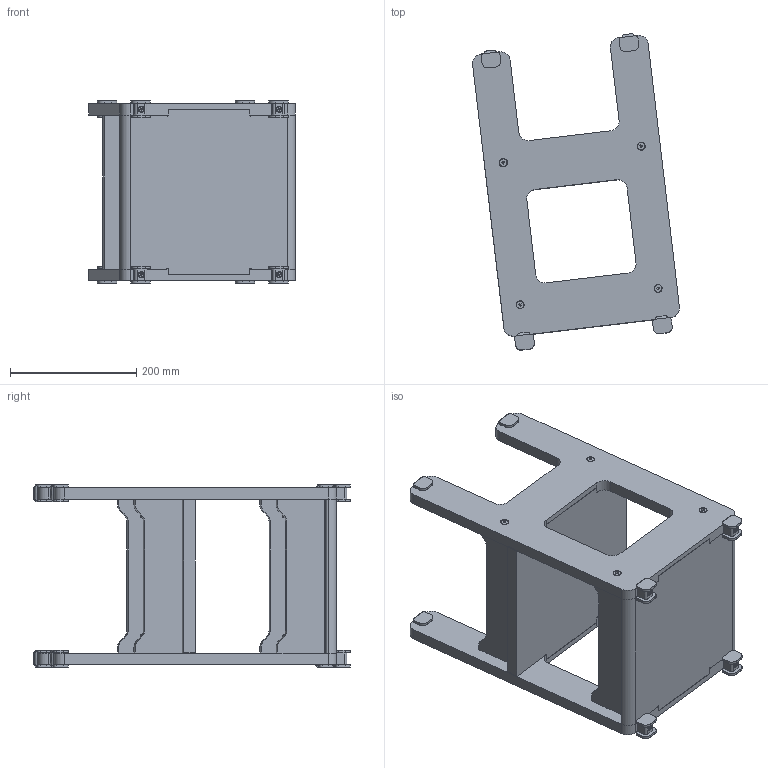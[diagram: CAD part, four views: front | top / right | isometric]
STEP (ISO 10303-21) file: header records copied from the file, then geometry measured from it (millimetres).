
FILE_DESCRIPTION (( 'STEP AP214' ), '1' );
FILE_NAME ('tabouret-rangement-280x280x450.STEP', '2016-07-25T16:02:40', ( '' ), ( '' ), 'SwSTEP 2.0', 'SolidWorks 2014', '' );
FILE_SCHEMA (( 'AUTOMOTIVE_DESIGN' ));
Length unit declared in the file: millimetre
Products named in the file (10): Plateau-inferieur-tabouret-rangement-280x280; Boulon-M6x50-ecrou-10x10x4; Phillips-screw-4x35_0.750 (20mm); Vis-M6x50-Socket-FCHS; tabouret-rangement-280x280x450; Ecrou-carre-M6-10x10x4; embout-connecteur-V4; traversse-longitudinale-280mm-new-forme; plaque-cote-tabouret-rangement-280x450; Plateau-superieur-tabouret-rangement-280x280
Assembly tree (34 placements, depth 3):
  tabouret-rangement-280x280x450
    plaque-cote-tabouret-rangement-280x450  x2
    traversse-longitudinale-280mm-new-forme  x4
    Boulon-M6x50-ecrou-10x10x4  x8
      Vis-M6x50-Socket-FCHS
      Ecrou-carre-M6-10x10x4
    embout-connecteur-V4  x8
    Phillips-screw-4x35_0.750 (20mm)  x8
    Plateau-superieur-tabouret-rangement-280x280
    Plateau-inferieur-tabouret-rangement-280x280
Bounding box: 327.8 x 500.89 x 288.75 mm (x, y, z)
Volume: 6401083.7 mm3; surface area: 982955.3 mm2
Topology: 48 solids, 56 shells, 3162 faces, 7346 edges, 4144 vertices
Faces by surface type: cone 1128, cylinder 1020, plane 790, bspline 88, torus 72, sphere 64
Entity records: 22223 total; most frequent: CARTESIAN_POINT 7310, DIRECTION 3129, ORIENTED_EDGE 2828, EDGE_CURVE 1414, AXIS2_PLACEMENT_3D 1146, VERTEX_POINT 860, VECTOR 837, LINE 837
